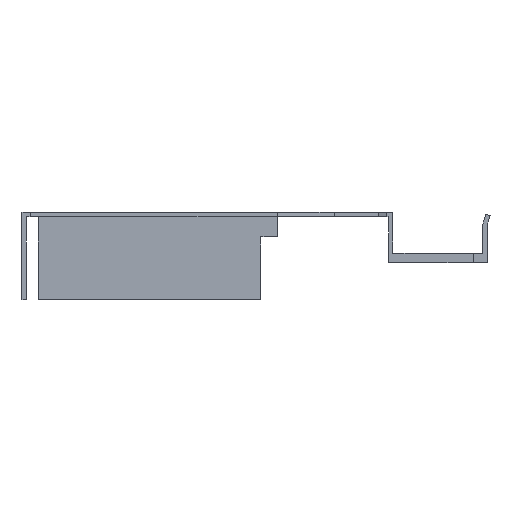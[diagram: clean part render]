
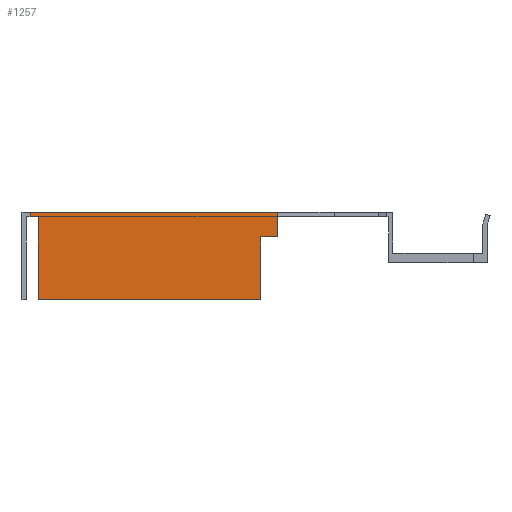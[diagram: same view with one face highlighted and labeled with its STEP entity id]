
A CAD part, left-side view. The second image highlights one B-rep face of the part: STEP entity #1257.
In plain terms, the highlighted planar face has unit normal (-1, 0, 0).
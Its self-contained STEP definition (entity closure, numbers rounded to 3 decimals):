
#91 = EDGE_LOOP ( 'NONE', ( #1376, #1377, #1378, #1379, #1380, #1381, #1382, #1383 ) ) ;
#102 = LINE ( 'NONE', #791, #103 ) ;
#103 = VECTOR ( 'NONE', #792, 1000. ) ;
#110 = LINE ( 'NONE', #799, #111 ) ;
#111 = VECTOR ( 'NONE', #800, 1000. ) ;
#166 = LINE ( 'NONE', #863, #167 ) ;
#167 = VECTOR ( 'NONE', #864, 1000. ) ;
#168 = LINE ( 'NONE', #866, #169 ) ;
#169 = VECTOR ( 'NONE', #867, 1000. ) ;
#184 = LINE ( 'NONE', #882, #185 ) ;
#185 = VECTOR ( 'NONE', #883, 1000. ) ;
#190 = LINE ( 'NONE', #888, #191 ) ;
#191 = VECTOR ( 'NONE', #889, 1000. ) ;
#236 = LINE ( 'NONE', #941, #237 ) ;
#237 = VECTOR ( 'NONE', #942, 1000. ) ;
#246 = FACE_OUTER_BOUND ( 'NONE', #91, .T. ) ;
#349 = AXIS2_PLACEMENT_3D ( 'NONE', #1052, #1058, #1059 ) ;
#405 = EDGE_CURVE ( 'NONE', #631, #638, #1618, .T. ) ;
#438 = EDGE_CURVE ( 'NONE', #570, #631, #102, .T. ) ;
#442 = EDGE_CURVE ( 'NONE', #591, #627, #110, .T. ) ;
#473 = EDGE_CURVE ( 'NONE', #570, #556, #166, .T. ) ;
#474 = EDGE_CURVE ( 'NONE', #556, #600, #168, .T. ) ;
#489 = EDGE_CURVE ( 'NONE', #600, #591, #184, .T. ) ;
#492 = EDGE_CURVE ( 'NONE', #626, #627, #190, .T. ) ;
#540 = EDGE_CURVE ( 'NONE', #638, #626, #236, .T. ) ;
#556 = VERTEX_POINT ( 'NONE', #957 ) ;
#570 = VERTEX_POINT ( 'NONE', #971 ) ;
#591 = VERTEX_POINT ( 'NONE', #992 ) ;
#600 = VERTEX_POINT ( 'NONE', #1001 ) ;
#626 = VERTEX_POINT ( 'NONE', #1027 ) ;
#627 = VERTEX_POINT ( 'NONE', #1028 ) ;
#631 = VERTEX_POINT ( 'NONE', #1032 ) ;
#638 = VERTEX_POINT ( 'NONE', #1039 ) ;
#716 = CARTESIAN_POINT ( 'NONE',  ( -1113., 65., -8.5 ) ) ;
#726 = DIRECTION ( 'NONE',  ( 0., -1., 0. ) ) ;
#791 = CARTESIAN_POINT ( 'NONE',  ( -1113., 65., 7.5 ) ) ;
#792 = DIRECTION ( 'NONE',  ( 0., 0., -1. ) ) ;
#799 = CARTESIAN_POINT ( 'NONE',  ( -1113., 21.2, 0. ) ) ;
#800 = DIRECTION ( 'NONE',  ( 0., 0., -1. ) ) ;
#863 = CARTESIAN_POINT ( 'NONE',  ( -1113., 0.8, 6.7 ) ) ;
#864 = DIRECTION ( 'NONE',  ( 0., 1., 0. ) ) ;
#866 = CARTESIAN_POINT ( 'NONE',  ( -1113., 66.5, 6.7 ) ) ;
#867 = DIRECTION ( 'NONE',  ( 0., 0., 1. ) ) ;
#882 = CARTESIAN_POINT ( 'NONE',  ( -1113., 0., 7.5 ) ) ;
#883 = DIRECTION ( 'NONE',  ( 0., -1., 0. ) ) ;
#888 = CARTESIAN_POINT ( 'NONE',  ( -1113., 24.2, 3. ) ) ;
#889 = DIRECTION ( 'NONE',  ( 0., -1., 0. ) ) ;
#941 = CARTESIAN_POINT ( 'NONE',  ( -1113., 24.2, -8.5 ) ) ;
#942 = DIRECTION ( 'NONE',  ( 0., 0., 1. ) ) ;
#957 = CARTESIAN_POINT ( 'NONE',  ( -1113., 66.5, 6.7 ) ) ;
#971 = CARTESIAN_POINT ( 'NONE',  ( -1113., 65., 6.7 ) ) ;
#992 = CARTESIAN_POINT ( 'NONE',  ( -1113., 21.2, 7.5 ) ) ;
#1001 = CARTESIAN_POINT ( 'NONE',  ( -1113., 66.5, 7.5 ) ) ;
#1027 = CARTESIAN_POINT ( 'NONE',  ( -1113., 24.2, 3. ) ) ;
#1028 = CARTESIAN_POINT ( 'NONE',  ( -1113., 21.2, 3. ) ) ;
#1032 = CARTESIAN_POINT ( 'NONE',  ( -1113., 65., -8.5 ) ) ;
#1039 = CARTESIAN_POINT ( 'NONE',  ( -1113., 24.2, -8.5 ) ) ;
#1047 = PLANE ( 'NONE',  #349 ) ;
#1052 = CARTESIAN_POINT ( 'NONE',  ( -1113., -16.5, 0. ) ) ;
#1058 = DIRECTION ( 'NONE',  ( -1., 0., 0. ) ) ;
#1059 = DIRECTION ( 'NONE',  ( 0., 0., 1. ) ) ;
#1257 = ADVANCED_FACE ( 'NONE', ( #246 ), #1047, .T. ) ;
#1376 = ORIENTED_EDGE ( 'NONE', *, *, #474, .F. ) ;
#1377 = ORIENTED_EDGE ( 'NONE', *, *, #473, .F. ) ;
#1378 = ORIENTED_EDGE ( 'NONE', *, *, #438, .T. ) ;
#1379 = ORIENTED_EDGE ( 'NONE', *, *, #405, .T. ) ;
#1380 = ORIENTED_EDGE ( 'NONE', *, *, #540, .T. ) ;
#1381 = ORIENTED_EDGE ( 'NONE', *, *, #492, .T. ) ;
#1382 = ORIENTED_EDGE ( 'NONE', *, *, #442, .F. ) ;
#1383 = ORIENTED_EDGE ( 'NONE', *, *, #489, .F. ) ;
#1610 = VECTOR ( 'NONE', #726, 1000. ) ;
#1618 = LINE ( 'NONE', #716, #1610 ) ;
